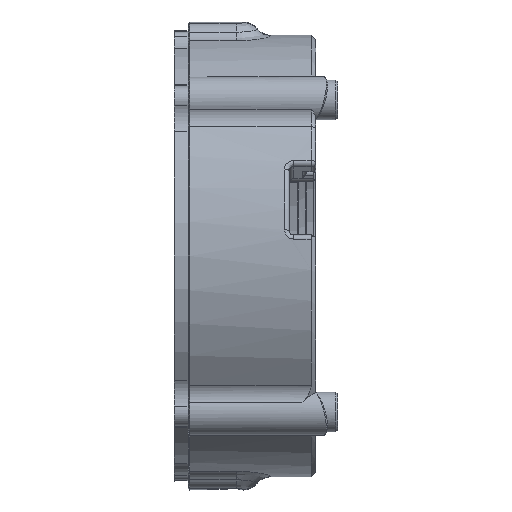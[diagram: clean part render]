
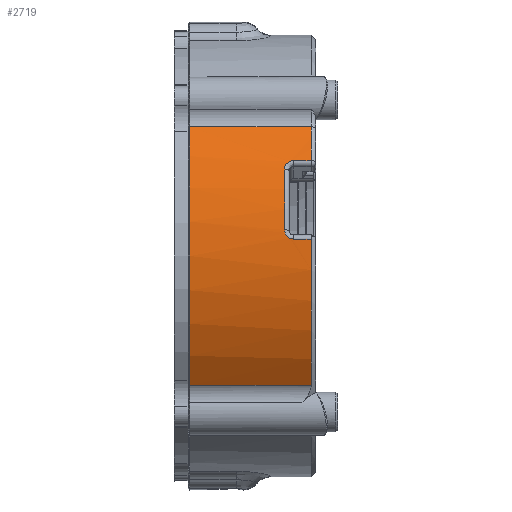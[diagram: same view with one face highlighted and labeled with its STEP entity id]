
A CAD part, left-side view. The second image highlights one B-rep face of the part: STEP entity #2719.
In plain terms, the highlighted cylindrical face has radius 25 mm (diameter 50 mm), a partial arc.
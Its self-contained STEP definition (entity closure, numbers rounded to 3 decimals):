
#47 = CARTESIAN_POINT ( 'NONE',  ( -22.87, 3.475, 10.098 ) ) ;
#183 = CARTESIAN_POINT ( 'NONE',  ( -22.561, 2.768, 10.77 ) ) ;
#733 = CARTESIAN_POINT ( 'NONE',  ( -24.909, 3.121, 2.138 ) ) ;
#784 = CARTESIAN_POINT ( 'NONE',  ( 0., 16., 0. ) ) ;
#853 = DIRECTION ( 'NONE',  ( 0., 1., 0. ) ) ;
#1139 = CARTESIAN_POINT ( 'NONE',  ( -20.263, 14.25, 14.643 ) ) ;
#1230 = CARTESIAN_POINT ( 'NONE',  ( -20.263, 14.25, -14.643 ) ) ;
#1466 = VERTEX_POINT ( 'NONE', #10601 ) ;
#1490 = CARTESIAN_POINT ( 'NONE',  ( -20.263, 16., 14.643 ) ) ;
#1620 = VECTOR ( 'NONE', #7918, 1000. ) ;
#1685 = EDGE_CURVE ( 'NONE', #3566, #6409, #9720, .T. ) ;
#1832 = CARTESIAN_POINT ( 'NONE',  ( -24.926, 2.5, 1.925 ) ) ;
#1859 = VERTEX_POINT ( 'NONE', #12787 ) ;
#1904 = B_SPLINE_CURVE_WITH_KNOTS ( 'NONE', 3,
 ( #7076, #6112, #3962, #5079, #9212, #733, #1966, #11290, #10260, #1832 ),
 .UNSPECIFIED., .F., .F.,
 ( 4, 2, 2, 2, 4 ),
 ( 0., 0., 0.001, 0.001, 0.002 ),
 .UNSPECIFIED. ) ;
#1966 = CARTESIAN_POINT ( 'NONE',  ( -24.915, 3.01, 2.059 ) ) ;
#2405 = ORIENTED_EDGE ( 'NONE', *, *, #8116, .T. ) ;
#2719 = ADVANCED_FACE ( 'NONE', ( #2853 ), #13556, .T. ) ;
#2798 = LINE ( 'NONE', #5142, #9608 ) ;
#2853 = FACE_OUTER_BOUND ( 'NONE', #12387, .T. ) ;
#2889 = EDGE_CURVE ( 'NONE', #11298, #6634, #3329, .T. ) ;
#2918 = DIRECTION ( 'NONE',  ( 0., -1., 0. ) ) ;
#3218 = CARTESIAN_POINT ( 'NONE',  ( -22.976, 3.5, 9.854 ) ) ;
#3329 = CIRCLE ( 'NONE', #9287, 25. ) ;
#3347 = CARTESIAN_POINT ( 'NONE',  ( -22.923, 3.5, 9.977 ) ) ;
#3381 = CARTESIAN_POINT ( 'NONE',  ( -24.926, 2.5, 1.925 ) ) ;
#3507 = ORIENTED_EDGE ( 'NONE', *, *, #3857, .F. ) ;
#3523 = CARTESIAN_POINT ( 'NONE',  ( 0., 14.25, 0. ) ) ;
#3566 = VERTEX_POINT ( 'NONE', #4046 ) ;
#3857 = EDGE_CURVE ( 'NONE', #5530, #11939, #6462, .T. ) ;
#3890 = DIRECTION ( 'NONE',  ( 0., -1., 0. ) ) ;
#3896 = DIRECTION ( 'NONE',  ( 0., 0., 1. ) ) ;
#3962 = CARTESIAN_POINT ( 'NONE',  ( -24.855, 3.474, 2.688 ) ) ;
#3970 = AXIS2_PLACEMENT_3D ( 'NONE', #13631, #853, #5342 ) ;
#4046 = CARTESIAN_POINT ( 'NONE',  ( -20.263, 0.5, -14.643 ) ) ;
#4178 = ORIENTED_EDGE ( 'NONE', *, *, #2889, .T. ) ;
#4327 = CARTESIAN_POINT ( 'NONE',  ( -22.769, 3.377, 10.324 ) ) ;
#4395 = CARTESIAN_POINT ( 'NONE',  ( -22.64, 3.121, 10.603 ) ) ;
#4505 = CARTESIAN_POINT ( 'NONE',  ( -22.549, 2.5, 10.796 ) ) ;
#4570 = EDGE_CURVE ( 'NONE', #6409, #10966, #8618, .T. ) ;
#5079 = CARTESIAN_POINT ( 'NONE',  ( -24.881, 3.377, 2.443 ) ) ;
#5126 = VECTOR ( 'NONE', #11023, 1000. ) ;
#5142 = CARTESIAN_POINT ( 'NONE',  ( -20.263, 16., -14.643 ) ) ;
#5299 = CARTESIAN_POINT ( 'NONE',  ( -22.549, 2.634, 10.796 ) ) ;
#5300 = ORIENTED_EDGE ( 'NONE', *, *, #1685, .T. ) ;
#5342 = DIRECTION ( 'NONE',  ( 0., 0., 1. ) ) ;
#5387 = CARTESIAN_POINT ( 'NONE',  ( -24.926, 16., 1.925 ) ) ;
#5530 = VERTEX_POINT ( 'NONE', #4505 ) ;
#5631 = ORIENTED_EDGE ( 'NONE', *, *, #10177, .T. ) ;
#5864 = EDGE_CURVE ( 'NONE', #8391, #11298, #7840, .T. ) ;
#5930 = CARTESIAN_POINT ( 'NONE',  ( -22.549, 16., 10.796 ) ) ;
#6034 = AXIS2_PLACEMENT_3D ( 'NONE', #10883, #12127, #6946 ) ;
#6048 = DIRECTION ( 'NONE',  ( 0., 1., 0. ) ) ;
#6112 = CARTESIAN_POINT ( 'NONE',  ( -24.841, 3.5, 2.821 ) ) ;
#6235 = VECTOR ( 'NONE', #9798, 1000. ) ;
#6409 = VERTEX_POINT ( 'NONE', #9040 ) ;
#6462 = B_SPLINE_CURVE_WITH_KNOTS ( 'NONE', 3,
 ( #12890, #5299, #183, #9501, #4395, #10815, #4327, #47, #3347, #3218 ),
 .UNSPECIFIED., .F., .F.,
 ( 4, 2, 2, 2, 4 ),
 ( 0., 0., 0.001, 0.001, 0.002 ),
 .UNSPECIFIED. ) ;
#6634 = VERTEX_POINT ( 'NONE', #1230 ) ;
#6775 = ORIENTED_EDGE ( 'NONE', *, *, #7241, .T. ) ;
#6946 = DIRECTION ( 'NONE',  ( 0., 0., -1. ) ) ;
#7076 = CARTESIAN_POINT ( 'NONE',  ( -24.825, 3.5, 2.954 ) ) ;
#7141 = ORIENTED_EDGE ( 'NONE', *, *, #4570, .T. ) ;
#7241 = EDGE_CURVE ( 'NONE', #1466, #11939, #10663, .T. ) ;
#7648 = EDGE_CURVE ( 'NONE', #5530, #1859, #8814, .T. ) ;
#7840 = LINE ( 'NONE', #1490, #5126 ) ;
#7918 = DIRECTION ( 'NONE',  ( 0., -1., 0. ) ) ;
#8024 = CARTESIAN_POINT ( 'NONE',  ( -20.263, 0.5, 14.643 ) ) ;
#8079 = ORIENTED_EDGE ( 'NONE', *, *, #7648, .T. ) ;
#8094 = EDGE_CURVE ( 'NONE', #1466, #10966, #1904, .T. ) ;
#8116 = EDGE_CURVE ( 'NONE', #1859, #8391, #10455, .T. ) ;
#8291 = DIRECTION ( 'NONE',  ( 0., 0., -1. ) ) ;
#8391 = VERTEX_POINT ( 'NONE', #8024 ) ;
#8618 = LINE ( 'NONE', #5387, #6235 ) ;
#8814 = LINE ( 'NONE', #5930, #1620 ) ;
#8897 = AXIS2_PLACEMENT_3D ( 'NONE', #10460, #6048, #3896 ) ;
#9040 = CARTESIAN_POINT ( 'NONE',  ( -24.926, 0.5, 1.925 ) ) ;
#9061 = AXIS2_PLACEMENT_3D ( 'NONE', #784, #2918, #8291 ) ;
#9212 = CARTESIAN_POINT ( 'NONE',  ( -24.891, 3.304, 2.329 ) ) ;
#9287 = AXIS2_PLACEMENT_3D ( 'NONE', #3523, #12166, #12101 ) ;
#9501 = CARTESIAN_POINT ( 'NONE',  ( -22.607, 3.01, 10.674 ) ) ;
#9608 = VECTOR ( 'NONE', #3890, 1000. ) ;
#9720 = CIRCLE ( 'NONE', #3970, 25. ) ;
#9798 = DIRECTION ( 'NONE',  ( 0., 1., 0. ) ) ;
#10177 = EDGE_CURVE ( 'NONE', #6634, #3566, #2798, .T. ) ;
#10260 = CARTESIAN_POINT ( 'NONE',  ( -24.926, 2.634, 1.925 ) ) ;
#10455 = CIRCLE ( 'NONE', #8897, 25. ) ;
#10460 = CARTESIAN_POINT ( 'NONE',  ( 0., 0.5, 0. ) ) ;
#10601 = CARTESIAN_POINT ( 'NONE',  ( -24.825, 3.5, 2.954 ) ) ;
#10663 = CIRCLE ( 'NONE', #6034, 25. ) ;
#10815 = CARTESIAN_POINT ( 'NONE',  ( -22.721, 3.304, 10.428 ) ) ;
#10883 = CARTESIAN_POINT ( 'NONE',  ( 0., 3.5, 0. ) ) ;
#10916 = ORIENTED_EDGE ( 'NONE', *, *, #5864, .T. ) ;
#10966 = VERTEX_POINT ( 'NONE', #3381 ) ;
#11023 = DIRECTION ( 'NONE',  ( 0., 1., 0. ) ) ;
#11290 = CARTESIAN_POINT ( 'NONE',  ( -24.924, 2.766, 1.953 ) ) ;
#11298 = VERTEX_POINT ( 'NONE', #1139 ) ;
#11939 = VERTEX_POINT ( 'NONE', #12806 ) ;
#12101 = DIRECTION ( 'NONE',  ( 0., 0., 1. ) ) ;
#12127 = DIRECTION ( 'NONE',  ( 0., 1., 0. ) ) ;
#12166 = DIRECTION ( 'NONE',  ( 0., -1., 0. ) ) ;
#12387 = EDGE_LOOP ( 'NONE', ( #8079, #2405, #10916, #4178, #5631, #5300, #7141, #13189, #6775, #3507 ) ) ;
#12787 = CARTESIAN_POINT ( 'NONE',  ( -22.549, 0.5, 10.796 ) ) ;
#12806 = CARTESIAN_POINT ( 'NONE',  ( -22.976, 3.5, 9.854 ) ) ;
#12890 = CARTESIAN_POINT ( 'NONE',  ( -22.549, 2.5, 10.796 ) ) ;
#13189 = ORIENTED_EDGE ( 'NONE', *, *, #8094, .F. ) ;
#13556 = CYLINDRICAL_SURFACE ( 'NONE', #9061, 25. ) ;
#13631 = CARTESIAN_POINT ( 'NONE',  ( 0., 0.5, 0. ) ) ;
